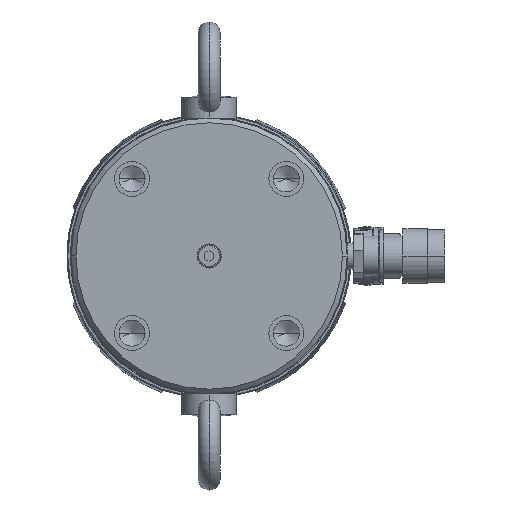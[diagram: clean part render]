
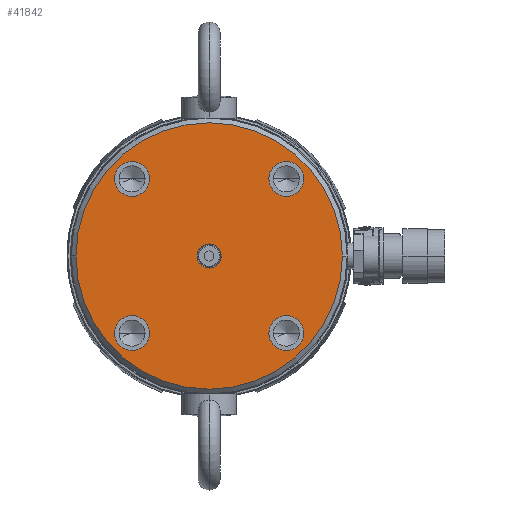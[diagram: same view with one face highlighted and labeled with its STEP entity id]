
A CAD part, front view. The second image highlights one B-rep face of the part: STEP entity #41842.
In plain terms, the highlighted planar face has unit normal (0, -1, 0).
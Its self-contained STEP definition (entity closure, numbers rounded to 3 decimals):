
#7471=CARTESIAN_POINT('',(0.,0.,0.));
#7472=DIRECTION('',(0.,-1.,0.));
#7473=DIRECTION('',(1.,0.,0.));
#7474=AXIS2_PLACEMENT_3D('',#7471,#7472,#7473);
#7476=CARTESIAN_POINT('',(0.,0.,0.));
#7477=DIRECTION('',(0.,-1.,0.));
#7478=DIRECTION('',(-1.,0.,0.));
#7479=AXIS2_PLACEMENT_3D('',#7476,#7477,#7478);
#7481=CARTESIAN_POINT('',(0.,0.,0.));
#7482=DIRECTION('',(0.,-1.,0.));
#7483=DIRECTION('',(1.,0.,0.));
#7484=AXIS2_PLACEMENT_3D('',#7481,#7482,#7483);
#7486=CARTESIAN_POINT('',(0.,0.,0.));
#7487=DIRECTION('',(0.,-1.,0.));
#7488=DIRECTION('',(-1.,0.,0.));
#7489=AXIS2_PLACEMENT_3D('',#7486,#7487,#7488);
#7491=CARTESIAN_POINT('',(49.391,0.,
49.391));
#7492=DIRECTION('',(0.,-1.,0.));
#7493=DIRECTION('',(1.,0.,0.));
#7494=AXIS2_PLACEMENT_3D('',#7491,#7492,#7493);
#7496=CARTESIAN_POINT('',(49.391,0.,
49.391));
#7497=DIRECTION('',(0.,-1.,0.));
#7498=DIRECTION('',(-1.,0.,0.));
#7499=AXIS2_PLACEMENT_3D('',#7496,#7497,#7498);
#7501=CARTESIAN_POINT('',(-49.391,0.,
49.391));
#7502=DIRECTION('',(0.,-1.,0.));
#7503=DIRECTION('',(1.,0.,0.));
#7504=AXIS2_PLACEMENT_3D('',#7501,#7502,#7503);
#7506=CARTESIAN_POINT('',(-49.391,0.,
49.391));
#7507=DIRECTION('',(0.,-1.,0.));
#7508=DIRECTION('',(-1.,0.,0.));
#7509=AXIS2_PLACEMENT_3D('',#7506,#7507,#7508);
#7511=CARTESIAN_POINT('',(-49.391,0.,
-49.391));
#7512=DIRECTION('',(0.,-1.,0.));
#7513=DIRECTION('',(1.,0.,0.));
#7514=AXIS2_PLACEMENT_3D('',#7511,#7512,#7513);
#7516=CARTESIAN_POINT('',(-49.391,0.,
-49.391));
#7517=DIRECTION('',(0.,-1.,0.));
#7518=DIRECTION('',(-1.,0.,0.));
#7519=AXIS2_PLACEMENT_3D('',#7516,#7517,#7518);
#7521=CARTESIAN_POINT('',(49.391,0.,
-49.391));
#7522=DIRECTION('',(0.,-1.,0.));
#7523=DIRECTION('',(1.,0.,0.));
#7524=AXIS2_PLACEMENT_3D('',#7521,#7522,#7523);
#7526=CARTESIAN_POINT('',(49.391,0.,
-49.391));
#7527=DIRECTION('',(0.,-1.,0.));
#7528=DIRECTION('',(-1.,0.,0.));
#7529=AXIS2_PLACEMENT_3D('',#7526,#7527,#7528);
#30576=CARTESIAN_POINT('',(7.692,0.,0.));
#30577=CARTESIAN_POINT('',(-7.692,0.,0.));
#30578=VERTEX_POINT('',#30576);
#30579=VERTEX_POINT('',#30577);
#30596=CARTESIAN_POINT('',(60.567,0.,
49.391));
#30597=CARTESIAN_POINT('',(38.215,0.,
49.391));
#30598=VERTEX_POINT('',#30596);
#30599=VERTEX_POINT('',#30597);
#30604=CARTESIAN_POINT('',(-38.215,0.,
49.391));
#30605=CARTESIAN_POINT('',(-60.567,0.,
49.391));
#30606=VERTEX_POINT('',#30604);
#30607=VERTEX_POINT('',#30605);
#30612=CARTESIAN_POINT('',(-38.215,0.,
-49.391));
#30613=CARTESIAN_POINT('',(-60.567,0.,
-49.391));
#30614=VERTEX_POINT('',#30612);
#30615=VERTEX_POINT('',#30613);
#30620=CARTESIAN_POINT('',(60.567,0.,
-49.391));
#30621=CARTESIAN_POINT('',(38.215,0.,
-49.391));
#30622=VERTEX_POINT('',#30620);
#30623=VERTEX_POINT('',#30621);
#30648=CARTESIAN_POINT('',(85.281,0.,0.));
#30649=CARTESIAN_POINT('',(-85.281,0.,0.));
#30650=VERTEX_POINT('',#30648);
#30651=VERTEX_POINT('',#30649);
#41802=CARTESIAN_POINT('',(0.,0.,0.));
#41803=DIRECTION('',(0.,1.,0.));
#41804=DIRECTION('',(-1.,0.,0.));
#41805=AXIS2_PLACEMENT_3D('',#41802,#41803,#41804);
#41806=PLANE('',#41805);
#41807=ORIENTED_EDGE('',*,*,#41792,.F.);
#41809=ORIENTED_EDGE('',*,*,#41808,.F.);
#41810=EDGE_LOOP('',(#41807,#41809));
#41811=FACE_OUTER_BOUND('',#41810,.F.);
#41813=ORIENTED_EDGE('',*,*,#41812,.T.);
#41815=ORIENTED_EDGE('',*,*,#41814,.T.);
#41816=EDGE_LOOP('',(#41813,#41815));
#41817=FACE_BOUND('',#41816,.F.);
#41819=ORIENTED_EDGE('',*,*,#41818,.T.);
#41821=ORIENTED_EDGE('',*,*,#41820,.T.);
#41822=EDGE_LOOP('',(#41819,#41821));
#41823=FACE_BOUND('',#41822,.F.);
#41825=ORIENTED_EDGE('',*,*,#41824,.T.);
#41827=ORIENTED_EDGE('',*,*,#41826,.T.);
#41828=EDGE_LOOP('',(#41825,#41827));
#41829=FACE_BOUND('',#41828,.F.);
#41831=ORIENTED_EDGE('',*,*,#41830,.T.);
#41833=ORIENTED_EDGE('',*,*,#41832,.T.);
#41834=EDGE_LOOP('',(#41831,#41833));
#41835=FACE_BOUND('',#41834,.F.);
#41837=ORIENTED_EDGE('',*,*,#41836,.T.);
#41839=ORIENTED_EDGE('',*,*,#41838,.T.);
#41840=EDGE_LOOP('',(#41837,#41839));
#41841=FACE_BOUND('',#41840,.F.);
#41842=ADVANCED_FACE('',(#41811,#41817,#41823,#41829,#41835,#41841),#41806,.F.);
#7475=CIRCLE('',#7474,85.281);
#7480=CIRCLE('',#7479,85.281);
#7485=CIRCLE('',#7484,7.692);
#7490=CIRCLE('',#7489,7.692);
#7495=CIRCLE('',#7494,11.176);
#7500=CIRCLE('',#7499,11.176);
#7505=CIRCLE('',#7504,11.176);
#7510=CIRCLE('',#7509,11.176);
#7515=CIRCLE('',#7514,11.176);
#7520=CIRCLE('',#7519,11.176);
#7525=CIRCLE('',#7524,11.176);
#7530=CIRCLE('',#7529,11.176);
#41792=EDGE_CURVE('',#30650,#30651,#7475,.T.);
#41808=EDGE_CURVE('',#30651,#30650,#7480,.T.);
#41812=EDGE_CURVE('',#30578,#30579,#7485,.T.);
#41814=EDGE_CURVE('',#30579,#30578,#7490,.T.);
#41818=EDGE_CURVE('',#30598,#30599,#7495,.T.);
#41820=EDGE_CURVE('',#30599,#30598,#7500,.T.);
#41824=EDGE_CURVE('',#30606,#30607,#7505,.T.);
#41826=EDGE_CURVE('',#30607,#30606,#7510,.T.);
#41830=EDGE_CURVE('',#30614,#30615,#7515,.T.);
#41832=EDGE_CURVE('',#30615,#30614,#7520,.T.);
#41836=EDGE_CURVE('',#30622,#30623,#7525,.T.);
#41838=EDGE_CURVE('',#30623,#30622,#7530,.T.);
